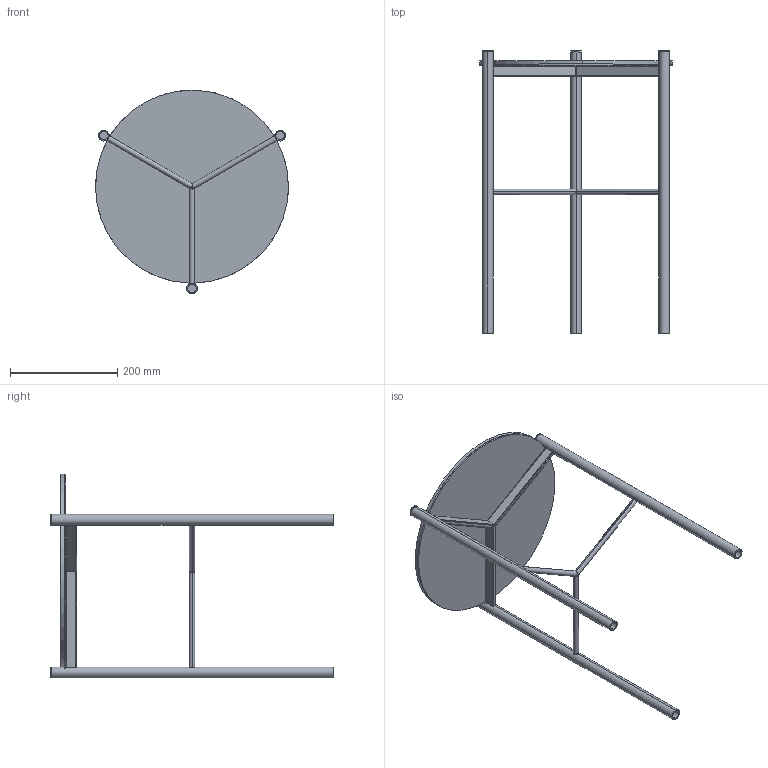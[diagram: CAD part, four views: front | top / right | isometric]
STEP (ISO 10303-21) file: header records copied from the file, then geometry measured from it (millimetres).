
FILE_DESCRIPTION (( 'STEP AP203' ), '1' );
FILE_NAME ('J601C.STEP', '2024-08-06T11:45:20', ( '' ), ( '' ), 'SwSTEP 2.0', 'SolidWorks 2022', '' );
FILE_SCHEMA (( 'CONFIG_CONTROL_DESIGN' ));
Length unit declared in the file: millimetre
Products named in the file (3): K1XCMXX-00-Piani Rotondi in ceramica_D.360; JXXXS00000000-00-jack metallo grezzo tutte le misure_J7B000001-JACK TAVOLINO D.36x51h<A macchina>; J601C
Assembly tree (2 placements, depth 2):
  J601C
    JXXXS00000000-00-jack metallo grezzo tutte le misure_J7B000001-JACK TAVOLINO D.36x51h<A macchina>
    K1XCMXX-00-Piani Rotondi in ceramica_D.360
Bounding box: 359.95 x 527 x 380.07 mm (x, y, z)
Volume: 1138525.1 mm3; surface area: 683738.6 mm2
Topology: 14 solids, 14 shells, 125 faces, 293 edges, 194 vertices
Faces by surface type: cylinder 73, plane 52
Entity records: 4516 total; most frequent: CARTESIAN_POINT 1449, ORIENTED_EDGE 586, DIRECTION 541, EDGE_CURVE 293, AXIS2_PLACEMENT_3D 196, VERTEX_POINT 194, VECTOR 149, LINE 149
